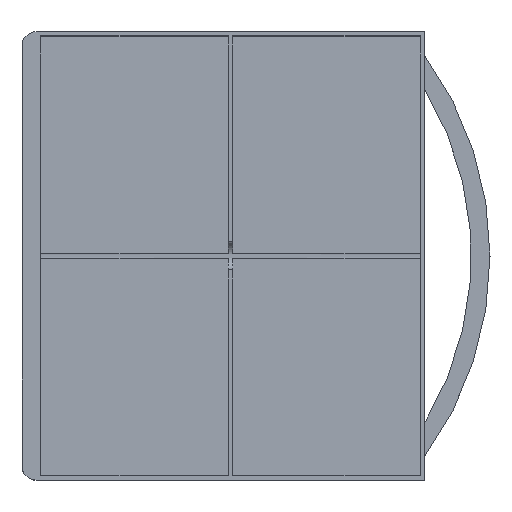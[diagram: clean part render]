
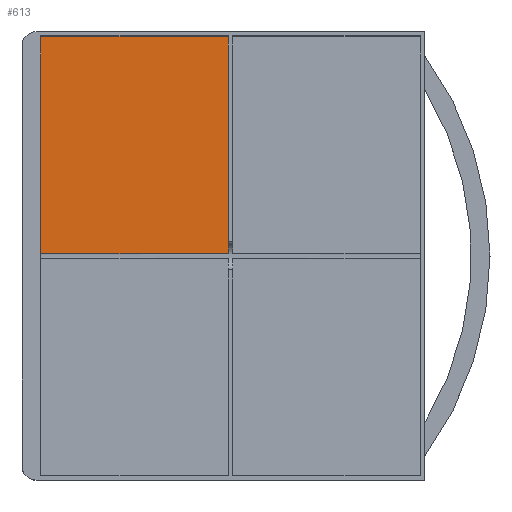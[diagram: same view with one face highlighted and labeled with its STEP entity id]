
A CAD part, top view. The second image highlights one B-rep face of the part: STEP entity #613.
In plain terms, the highlighted planar face has unit normal (0, 0, 1).
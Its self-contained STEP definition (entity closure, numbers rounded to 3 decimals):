
#31=PLANE('',#675);
#63=FACE_OUTER_BOUND('',#96,.T.);
#96=EDGE_LOOP('',(#527,#528,#529,#530));
#140=LINE('',#938,#211);
#146=LINE('',#948,#217);
#148=LINE('',#952,#219);
#169=LINE('',#1005,#240);
#211=VECTOR('',#753,10.);
#217=VECTOR('',#761,10.);
#219=VECTOR('',#765,10.);
#240=VECTOR('',#818,10.);
#301=VERTEX_POINT('',#935);
#302=VERTEX_POINT('',#937);
#305=VERTEX_POINT('',#946);
#306=VERTEX_POINT('',#950);
#366=EDGE_CURVE('',#302,#301,#140,.F.);
#372=EDGE_CURVE('',#301,#305,#146,.F.);
#374=EDGE_CURVE('',#305,#306,#148,.F.);
#401=EDGE_CURVE('',#306,#302,#169,.F.);
#527=ORIENTED_EDGE('',*,*,#372,.T.);
#528=ORIENTED_EDGE('',*,*,#374,.T.);
#529=ORIENTED_EDGE('',*,*,#401,.T.);
#530=ORIENTED_EDGE('',*,*,#366,.T.);
#613=ADVANCED_FACE('',(#63),#31,.F.);
#675=AXIS2_PLACEMENT_3D('',#1006,#819,#820);
#753=DIRECTION('',(0.,1.,0.));
#761=DIRECTION('',(-1.,0.,0.));
#765=DIRECTION('',(0.,-1.,0.));
#818=DIRECTION('',(1.,0.,0.));
#819=DIRECTION('center_axis',(0.,0.,-1.));
#820=DIRECTION('ref_axis',(0.,1.,0.));
#935=CARTESIAN_POINT('',(8.,0.45,-8.6));
#937=CARTESIAN_POINT('',(8.,47.,-8.6));
#938=CARTESIAN_POINT('',(8.,-23.725,-8.6));
#946=CARTESIAN_POINT('',(48.1,0.45,-8.6));
#948=CARTESIAN_POINT('',(26.05,0.45,-8.6));
#950=CARTESIAN_POINT('',(48.1,47.,-8.6));
#952=CARTESIAN_POINT('',(48.1,-0.45,-8.6));
#1005=CARTESIAN_POINT('',(6.,47.,-8.6));
#1006=CARTESIAN_POINT('Origin',(4.,-47.9,-8.6));
